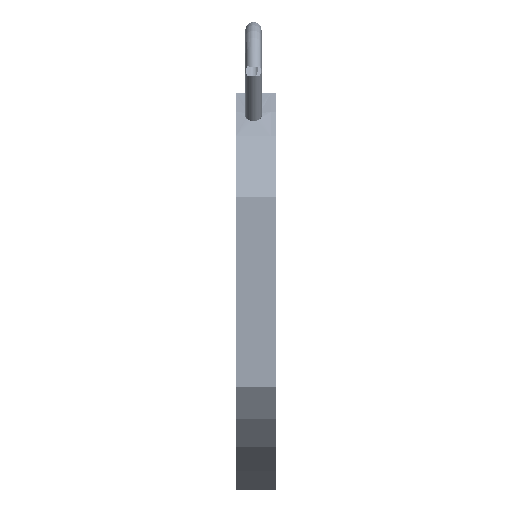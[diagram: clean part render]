
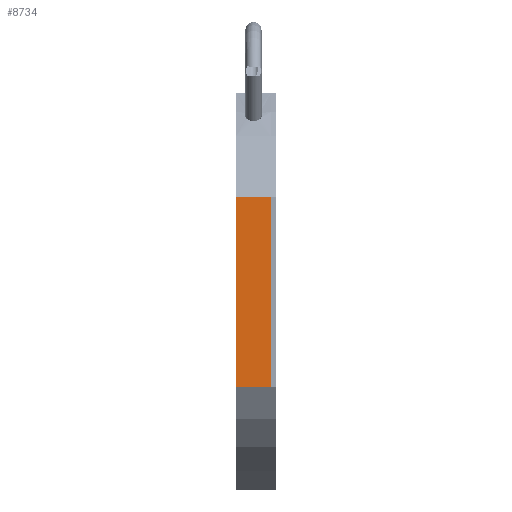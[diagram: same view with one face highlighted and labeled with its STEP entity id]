
A CAD part, left-side view. The second image highlights one B-rep face of the part: STEP entity #8734.
In plain terms, the highlighted planar face has unit normal (-1, 0, 0) as drawn and (1, 0, 0) by its records, which use the part's own axes.
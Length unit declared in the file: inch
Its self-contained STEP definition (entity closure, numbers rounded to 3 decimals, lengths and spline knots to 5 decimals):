
#3448 = VECTOR ( 'NONE', #9089, 39.37008 ) ;
#5664 = EDGE_CURVE ( 'NONE', #24137, #67394, #8523, .T. ) ;
#6084 = CARTESIAN_POINT ( 'NONE',  ( 2.76, 1.32136, -0.55773 ) ) ;
#6654 = EDGE_LOOP ( 'NONE', ( #7706, #22480, #12032, #18361 ) ) ;
#7706 = ORIENTED_EDGE ( 'NONE', *, *, #5664, .T. ) ;
#8523 = LINE ( 'NONE', #37218, #65773 ) ;
#8564 = CARTESIAN_POINT ( 'NONE',  ( 2.76, -1.32136, -0.07229 ) ) ;
#8734 = ADVANCED_FACE ( 'NONE', ( #19074 ), #17611, .T. ) ;
#9089 = DIRECTION ( 'NONE',  ( 0., 0., 1. ) ) ;
#10199 = VECTOR ( 'NONE', #33900, 39.37008 ) ;
#12032 = ORIENTED_EDGE ( 'NONE', *, *, #59123, .F. ) ;
#13658 = CARTESIAN_POINT ( 'NONE',  ( 2.76, 1.32136, -0.07229 ) ) ;
#16220 = VECTOR ( 'NONE', #41148, 39.37008 ) ;
#17611 = PLANE ( 'NONE',  #31570 ) ;
#18230 = EDGE_CURVE ( 'NONE', #45642, #67394, #69630, .T. ) ;
#18361 = ORIENTED_EDGE ( 'NONE', *, *, #54846, .F. ) ;
#19074 = FACE_OUTER_BOUND ( 'NONE', #6654, .T. ) ;
#22480 = ORIENTED_EDGE ( 'NONE', *, *, #18230, .F. ) ;
#24137 = VERTEX_POINT ( 'NONE', #13658 ) ;
#31570 = AXIS2_PLACEMENT_3D ( 'NONE', #47261, #41170, #47510 ) ;
#33900 = DIRECTION ( 'NONE',  ( 0., -1., 0. ) ) ;
#34324 = LINE ( 'NONE', #35587, #16220 ) ;
#35587 = CARTESIAN_POINT ( 'NONE',  ( 2.76, 1.32136, 0. ) ) ;
#37218 = CARTESIAN_POINT ( 'NONE',  ( 2.76, -2.76, -0.07229 ) ) ;
#41148 = DIRECTION ( 'NONE',  ( 0., 0., -1. ) ) ;
#41170 = DIRECTION ( 'NONE',  ( 1., 0., 0. ) ) ;
#43283 = DIRECTION ( 'NONE',  ( 0., -1., 0. ) ) ;
#45642 = VERTEX_POINT ( 'NONE', #59011 ) ;
#47261 = CARTESIAN_POINT ( 'NONE',  ( 2.76, -2.76, -0.07229 ) ) ;
#47510 = DIRECTION ( 'NONE',  ( 0., 0., -1. ) ) ;
#51159 = CARTESIAN_POINT ( 'NONE',  ( 2.76, 0., -0.55773 ) ) ;
#54846 = EDGE_CURVE ( 'NONE', #24137, #62903, #34324, .T. ) ;
#55643 = LINE ( 'NONE', #51159, #10199 ) ;
#59011 = CARTESIAN_POINT ( 'NONE',  ( 2.76, -1.32136, -0.55773 ) ) ;
#59123 = EDGE_CURVE ( 'NONE', #62903, #45642, #55643, .T. ) ;
#60846 = CARTESIAN_POINT ( 'NONE',  ( 2.76, -1.32136, 0. ) ) ;
#62903 = VERTEX_POINT ( 'NONE', #6084 ) ;
#65773 = VECTOR ( 'NONE', #43283, 39.37008 ) ;
#67394 = VERTEX_POINT ( 'NONE', #8564 ) ;
#69630 = LINE ( 'NONE', #60846, #3448 ) ;
